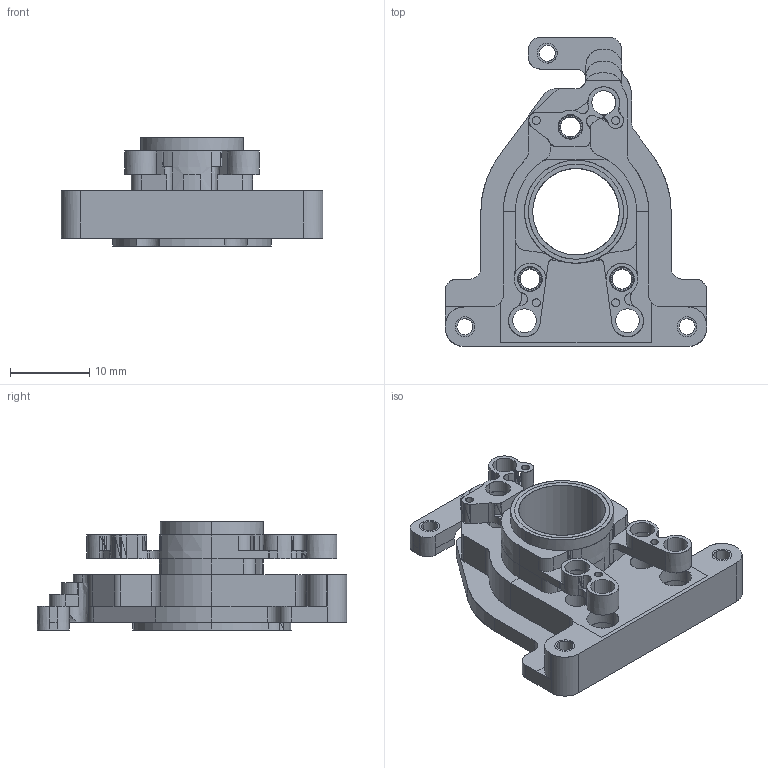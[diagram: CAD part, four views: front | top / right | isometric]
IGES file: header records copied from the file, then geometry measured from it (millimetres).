
Global section: file name: 0353-19-64D; native system: VariCAD 2012-1.04; preprocessor: 5.3; author: LVVS3874K00E; organization: Elphe, Inc.; date: 20120309.131653; units: millimetre
Bounding box: 33 x 39 x 13.65 mm (x, y, z)
Surface area: 5252.9 mm2 (no closed solid volume)
Topology: 0 solids, 0 shells, 335 faces, 1766 edges, 1756 vertices
Faces by surface type: revolution 217, bspline 118
